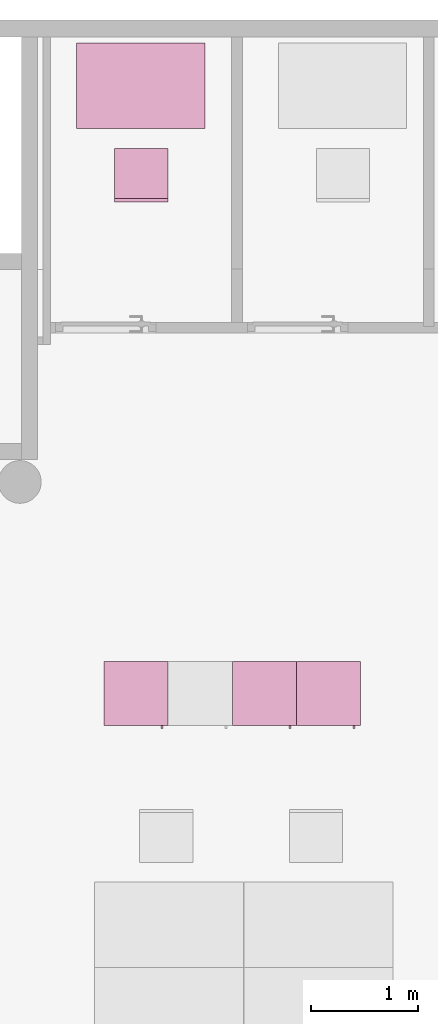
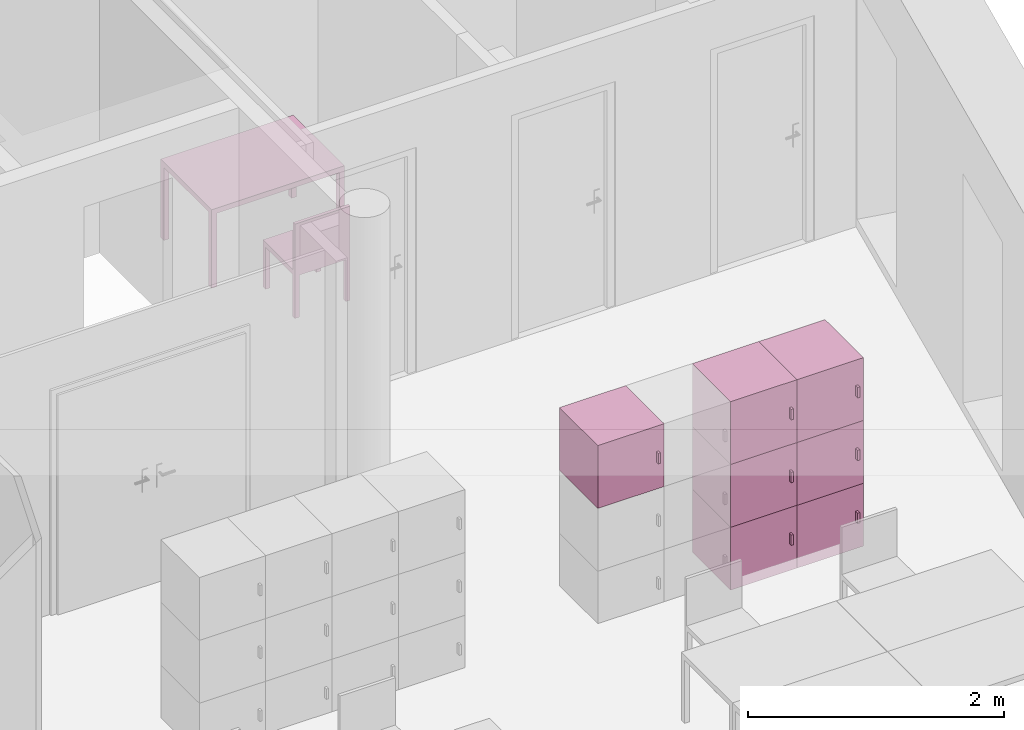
"""IFC4 building model written with IfcOpenShell, lengths in metres."""

from ifc_helpers import new_model, entity, si_unit, converted_unit, derived_unit, frame, origin, place, context, subcontext, project, spatial, faceted_brep, element, save


model = new_model("IFC4")

# Units and contexts
model_context = context("Model", 3, precision=1e-05, world=origin())
body_context = subcontext(model_context, "Body", "Model", "MODEL_VIEW")
ifc_project = project(units=[si_unit("LENGTHUNIT", "METRE"), si_unit("AREAUNIT", "SQUARE_METRE"), si_unit("VOLUMEUNIT", "CUBIC_METRE"), si_unit("MASSUNIT", "GRAM", prefix="KILO"), converted_unit("PLANEANGLEUNIT", "DEGREE", entity("IfcPlaneAngleMeasure", 0.0174532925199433), si_unit("PLANEANGLEUNIT", "RADIAN"), dimensions=[0, 0, 0, 0, 0, 0, 0]), derived_unit("THERMALTRANSMITTANCEUNIT", [(si_unit("POWERUNIT", "WATT"), 1), (si_unit("THERMODYNAMICTEMPERATUREUNIT", "KELVIN"), -1), (si_unit("LENGTHUNIT", "METRE"), -2)]), derived_unit("VOLUMETRICFLOWRATEUNIT", [(si_unit("LENGTHUNIT", "METRE"), 3), (converted_unit("TIMEUNIT", "hour", entity("IfcTimeMeasure", 3600.0), si_unit("TIMEUNIT", "SECOND"), dimensions=[0, 0, 1, 0, 0, 0, 0]), -1), (si_unit("LENGTHUNIT", "METRE"), -1)])], contexts=[model_context])

# Building, storeys
building_placement = place(None, origin())
building = spatial("IfcBuilding", under=ifc_project, at=building_placement, Name="HABITATGE PLURIFAMILIAR", CompositionType="ELEMENT")
storey_1_placement = place(building_placement, frame((0.0, 0.0, 15.28)))
storey_1 = spatial("IfcBuildingStorey", under=building, at=storey_1_placement, Name="PLANTA QUARTA", CompositionType="ELEMENT", Elevation=15.28)
storey_2_placement = place(storey_1_placement, frame((0.0, 0.0, 12.27)))
storey_2 = spatial("IfcBuildingStorey", under=storey_1, at=storey_2_placement, Name="NOU", CompositionType="PARTIAL")

# Furniture
furniture_1_placement = place(storey_2_placement, frame((422.982081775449, 21.587313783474, -11.77)))
element("IfcFurniture", 1, at=furniture_1_placement, inside=storey_2, Name="Armai 60x60x60_P4", context=body_context, shape_type="Brep", body=[
    faceted_brep([(0.600000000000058, 0.0300000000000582, 0.02), (0.600000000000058, 0.0300000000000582, 0.0), (0.0, 0.0300000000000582, 0.0), (0.0, 0.0300000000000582, 0.02), (0.0, 0.630000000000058, 0.0), (0.0, 0.630000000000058, 0.02), (0.600000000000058, 0.630000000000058, 0.0), (0.600000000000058, 0.630000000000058, 0.02)], [[[0, 1, 2, 3]], [[3, 2, 4, 5]], [[5, 4, 6, 7]], [[7, 6, 1, 0]], [[0, 3, 5, 7]], [[1, 6, 4, 2]]], orient=[[False], [False], [False], [False], [False], [False]]),
    faceted_brep([(0.02, 0.63, 0.58), (0.02, 0.61, 0.58), (0.02, 0.61, 0.02), (0.02, 0.63, 0.02), (0.58, 0.61, 0.02), (0.58, 0.63, 0.02), (0.58, 0.61, 0.58), (0.58, 0.63, 0.58)], [[[0, 1, 2, 3]], [[3, 2, 4, 5]], [[5, 4, 6, 7]], [[7, 6, 1, 0]], [[0, 3, 5, 7]], [[1, 6, 4, 2]]], orient=[[False], [False], [False], [False], [False], [False]]),
    faceted_brep([(0.58, 0.0300000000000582, 0.58), (0.6, 0.0300000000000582, 0.58), (0.6, 0.0300000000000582, 0.02), (0.58, 0.0300000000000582, 0.02), (0.6, 0.630000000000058, 0.02), (0.58, 0.630000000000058, 0.02), (0.6, 0.630000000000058, 0.58), (0.58, 0.630000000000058, 0.58)], [[[0, 1, 2, 3]], [[3, 2, 4, 5]], [[5, 4, 6, 7]], [[7, 6, 1, 0]], [[0, 3, 5, 7]], [[1, 6, 4, 2]]], orient=[[False], [False], [False], [False], [False], [False]]),
    faceted_brep([(0.600000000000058, 0.0500000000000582, 0.58), (0.600000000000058, 0.0300000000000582, 0.58), (0.600000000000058, 0.0300000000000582, 0.02), (0.600000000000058, 0.0500000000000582, 0.02), (0.580000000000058, 0.0300000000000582, 0.02), (0.580000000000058, 0.0500000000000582, 0.02), (0.580000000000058, 0.0300000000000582, 0.58), (0.580000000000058, 0.0500000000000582, 0.58)], [[[0, 1, 2, 3]], [[3, 2, 4, 5]], [[5, 4, 6, 7]], [[7, 6, 1, 0]], [[0, 3, 5, 7]], [[1, 6, 4, 2]]], orient=[[False], [False], [False], [False], [False], [False]]),
    faceted_brep([(0.0, 0.0300000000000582, 0.58), (0.0200000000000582, 0.0300000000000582, 0.58), (0.0200000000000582, 0.0300000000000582, 0.02), (0.0, 0.0300000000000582, 0.02), (0.0200000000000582, 0.630000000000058, 0.02), (0.0, 0.630000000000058, 0.02), (0.0200000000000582, 0.630000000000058, 0.58), (0.0, 0.630000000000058, 0.58)], [[[0, 1, 2, 3]], [[3, 2, 4, 5]], [[5, 4, 6, 7]], [[7, 6, 1, 0]], [[0, 3, 5, 7]], [[1, 6, 4, 2]]], orient=[[False], [False], [False], [False], [False], [False]]),
    faceted_brep([(0.6, 0.03, 0.6), (0.6, 0.03, 0.58), (0.0, 0.03, 0.58), (0.0, 0.03, 0.6), (0.0, 0.63, 0.58), (0.0, 0.63, 0.6), (0.6, 0.63, 0.58), (0.6, 0.63, 0.6)], [[[0, 1, 2, 3]], [[3, 2, 4, 5]], [[5, 4, 6, 7]], [[7, 6, 1, 0]], [[0, 3, 5, 7]], [[1, 6, 4, 2]]], orient=[[False], [False], [False], [False], [False], [False]]),
    faceted_brep([(0.02, 0.05, 0.58), (0.02, 0.03, 0.58), (0.02, 0.03, 0.02), (0.02, 0.05, 0.02), (0.580000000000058, 0.03, 0.02), (0.580000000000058, 0.05, 0.02), (0.580000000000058, 0.03, 0.58), (0.580000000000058, 0.05, 0.58)], [[[0, 1, 2, 3]], [[3, 2, 4, 5]], [[5, 4, 6, 7]], [[7, 6, 1, 0]], [[0, 3, 5, 7]], [[1, 6, 4, 2]]], orient=[[False], [False], [False], [False], [False], [False]]),
    faceted_brep([(0.53, 0.03, 0.358064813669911), (0.53, 0.0, 0.358064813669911), (0.53, 0.0, 0.258064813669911), (0.53, 0.03, 0.258064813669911), (0.55, 0.0, 0.258064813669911), (0.55, 0.03, 0.258064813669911), (0.55, 0.0, 0.358064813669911), (0.55, 0.03, 0.358064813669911)], [[[0, 1, 2, 3]], [[3, 2, 4, 5]], [[5, 4, 6, 7]], [[7, 6, 1, 0]], [[0, 3, 5, 7]], [[1, 6, 4, 2]]], orient=[[False], [False], [False], [False], [False], [False]]),
])
furniture_2_placement = place(storey_2_placement, frame((422.982081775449, 21.587313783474, -11.17)))
element("IfcFurniture", 2, at=furniture_2_placement, inside=storey_2, Name="Armai 60x60x60_P4", context=body_context, shape_type="Brep", body=[
    faceted_brep([(0.600000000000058, 0.0300000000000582, 0.02), (0.600000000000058, 0.0300000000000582, 0.0), (0.0, 0.0300000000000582, 0.0), (0.0, 0.0300000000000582, 0.02), (0.0, 0.630000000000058, 0.0), (0.0, 0.630000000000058, 0.02), (0.600000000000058, 0.630000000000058, 0.0), (0.600000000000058, 0.630000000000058, 0.02)], [[[0, 1, 2, 3]], [[3, 2, 4, 5]], [[5, 4, 6, 7]], [[7, 6, 1, 0]], [[0, 3, 5, 7]], [[1, 6, 4, 2]]], orient=[[False], [False], [False], [False], [False], [False]]),
    faceted_brep([(0.02, 0.63, 0.58), (0.02, 0.61, 0.58), (0.02, 0.61, 0.02), (0.02, 0.63, 0.02), (0.58, 0.61, 0.02), (0.58, 0.63, 0.02), (0.58, 0.61, 0.58), (0.58, 0.63, 0.58)], [[[0, 1, 2, 3]], [[3, 2, 4, 5]], [[5, 4, 6, 7]], [[7, 6, 1, 0]], [[0, 3, 5, 7]], [[1, 6, 4, 2]]], orient=[[False], [False], [False], [False], [False], [False]]),
    faceted_brep([(0.58, 0.0300000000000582, 0.58), (0.6, 0.0300000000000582, 0.58), (0.6, 0.0300000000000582, 0.02), (0.58, 0.0300000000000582, 0.02), (0.6, 0.630000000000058, 0.02), (0.58, 0.630000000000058, 0.02), (0.6, 0.630000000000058, 0.58), (0.58, 0.630000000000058, 0.58)], [[[0, 1, 2, 3]], [[3, 2, 4, 5]], [[5, 4, 6, 7]], [[7, 6, 1, 0]], [[0, 3, 5, 7]], [[1, 6, 4, 2]]], orient=[[False], [False], [False], [False], [False], [False]]),
    faceted_brep([(0.600000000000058, 0.0500000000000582, 0.58), (0.600000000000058, 0.0300000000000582, 0.58), (0.600000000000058, 0.0300000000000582, 0.02), (0.600000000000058, 0.0500000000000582, 0.02), (0.580000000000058, 0.0300000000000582, 0.02), (0.580000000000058, 0.0500000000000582, 0.02), (0.580000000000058, 0.0300000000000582, 0.58), (0.580000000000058, 0.0500000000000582, 0.58)], [[[0, 1, 2, 3]], [[3, 2, 4, 5]], [[5, 4, 6, 7]], [[7, 6, 1, 0]], [[0, 3, 5, 7]], [[1, 6, 4, 2]]], orient=[[False], [False], [False], [False], [False], [False]]),
    faceted_brep([(0.0, 0.0300000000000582, 0.58), (0.0200000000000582, 0.0300000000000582, 0.58), (0.0200000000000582, 0.0300000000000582, 0.02), (0.0, 0.0300000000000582, 0.02), (0.0200000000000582, 0.630000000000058, 0.02), (0.0, 0.630000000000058, 0.02), (0.0200000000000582, 0.630000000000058, 0.58), (0.0, 0.630000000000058, 0.58)], [[[0, 1, 2, 3]], [[3, 2, 4, 5]], [[5, 4, 6, 7]], [[7, 6, 1, 0]], [[0, 3, 5, 7]], [[1, 6, 4, 2]]], orient=[[False], [False], [False], [False], [False], [False]]),
    faceted_brep([(0.6, 0.03, 0.6), (0.6, 0.03, 0.58), (0.0, 0.03, 0.58), (0.0, 0.03, 0.6), (0.0, 0.63, 0.58), (0.0, 0.63, 0.6), (0.6, 0.63, 0.58), (0.6, 0.63, 0.6)], [[[0, 1, 2, 3]], [[3, 2, 4, 5]], [[5, 4, 6, 7]], [[7, 6, 1, 0]], [[0, 3, 5, 7]], [[1, 6, 4, 2]]], orient=[[False], [False], [False], [False], [False], [False]]),
    faceted_brep([(0.02, 0.05, 0.58), (0.02, 0.03, 0.58), (0.02, 0.03, 0.02), (0.02, 0.05, 0.02), (0.580000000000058, 0.03, 0.02), (0.580000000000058, 0.05, 0.02), (0.580000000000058, 0.03, 0.58), (0.580000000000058, 0.05, 0.58)], [[[0, 1, 2, 3]], [[3, 2, 4, 5]], [[5, 4, 6, 7]], [[7, 6, 1, 0]], [[0, 3, 5, 7]], [[1, 6, 4, 2]]], orient=[[False], [False], [False], [False], [False], [False]]),
    faceted_brep([(0.53, 0.03, 0.358064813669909), (0.53, 0.0, 0.358064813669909), (0.53, 0.0, 0.258064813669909), (0.53, 0.03, 0.258064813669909), (0.55, 0.0, 0.258064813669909), (0.55, 0.03, 0.258064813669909), (0.55, 0.0, 0.358064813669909), (0.55, 0.03, 0.358064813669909)], [[[0, 1, 2, 3]], [[3, 2, 4, 5]], [[5, 4, 6, 7]], [[7, 6, 1, 0]], [[0, 3, 5, 7]], [[1, 6, 4, 2]]], orient=[[False], [False], [False], [False], [False], [False]]),
])
furniture_3_placement = place(storey_2_placement, frame((421.782081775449, 21.587313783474, -11.17)))
element("IfcFurniture", 3, at=furniture_3_placement, inside=storey_2, Name="Armai 60x60x60_P4", context=body_context, shape_type="Brep", body=[
    faceted_brep([(0.600000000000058, 0.0300000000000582, 0.02), (0.600000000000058, 0.0300000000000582, 0.0), (0.0, 0.0300000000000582, 0.0), (0.0, 0.0300000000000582, 0.02), (0.0, 0.630000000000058, 0.0), (0.0, 0.630000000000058, 0.02), (0.600000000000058, 0.630000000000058, 0.0), (0.600000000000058, 0.630000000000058, 0.02)], [[[0, 1, 2, 3]], [[3, 2, 4, 5]], [[5, 4, 6, 7]], [[7, 6, 1, 0]], [[0, 3, 5, 7]], [[1, 6, 4, 2]]], orient=[[False], [False], [False], [False], [False], [False]]),
    faceted_brep([(0.02, 0.63, 0.58), (0.02, 0.61, 0.58), (0.02, 0.61, 0.02), (0.02, 0.63, 0.02), (0.58, 0.61, 0.02), (0.58, 0.63, 0.02), (0.58, 0.61, 0.58), (0.58, 0.63, 0.58)], [[[0, 1, 2, 3]], [[3, 2, 4, 5]], [[5, 4, 6, 7]], [[7, 6, 1, 0]], [[0, 3, 5, 7]], [[1, 6, 4, 2]]], orient=[[False], [False], [False], [False], [False], [False]]),
    faceted_brep([(0.58, 0.0300000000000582, 0.58), (0.6, 0.0300000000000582, 0.58), (0.6, 0.0300000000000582, 0.02), (0.58, 0.0300000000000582, 0.02), (0.6, 0.630000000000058, 0.02), (0.58, 0.630000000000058, 0.02), (0.6, 0.630000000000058, 0.58), (0.58, 0.630000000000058, 0.58)], [[[0, 1, 2, 3]], [[3, 2, 4, 5]], [[5, 4, 6, 7]], [[7, 6, 1, 0]], [[0, 3, 5, 7]], [[1, 6, 4, 2]]], orient=[[False], [False], [False], [False], [False], [False]]),
    faceted_brep([(0.600000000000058, 0.0500000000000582, 0.58), (0.600000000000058, 0.0300000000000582, 0.58), (0.600000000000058, 0.0300000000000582, 0.02), (0.600000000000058, 0.0500000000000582, 0.02), (0.580000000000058, 0.0300000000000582, 0.02), (0.580000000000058, 0.0500000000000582, 0.02), (0.580000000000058, 0.0300000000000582, 0.58), (0.580000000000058, 0.0500000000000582, 0.58)], [[[0, 1, 2, 3]], [[3, 2, 4, 5]], [[5, 4, 6, 7]], [[7, 6, 1, 0]], [[0, 3, 5, 7]], [[1, 6, 4, 2]]], orient=[[False], [False], [False], [False], [False], [False]]),
    faceted_brep([(0.0, 0.0300000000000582, 0.58), (0.0200000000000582, 0.0300000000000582, 0.58), (0.0200000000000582, 0.0300000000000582, 0.02), (0.0, 0.0300000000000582, 0.02), (0.0200000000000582, 0.630000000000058, 0.02), (0.0, 0.630000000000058, 0.02), (0.0200000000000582, 0.630000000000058, 0.58), (0.0, 0.630000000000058, 0.58)], [[[0, 1, 2, 3]], [[3, 2, 4, 5]], [[5, 4, 6, 7]], [[7, 6, 1, 0]], [[0, 3, 5, 7]], [[1, 6, 4, 2]]], orient=[[False], [False], [False], [False], [False], [False]]),
    faceted_brep([(0.6, 0.03, 0.6), (0.6, 0.03, 0.58), (0.0, 0.03, 0.58), (0.0, 0.03, 0.6), (0.0, 0.63, 0.58), (0.0, 0.63, 0.6), (0.6, 0.63, 0.58), (0.6, 0.63, 0.6)], [[[0, 1, 2, 3]], [[3, 2, 4, 5]], [[5, 4, 6, 7]], [[7, 6, 1, 0]], [[0, 3, 5, 7]], [[1, 6, 4, 2]]], orient=[[False], [False], [False], [False], [False], [False]]),
    faceted_brep([(0.02, 0.05, 0.58), (0.02, 0.03, 0.58), (0.02, 0.03, 0.02), (0.02, 0.05, 0.02), (0.580000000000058, 0.03, 0.02), (0.580000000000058, 0.05, 0.02), (0.580000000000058, 0.03, 0.58), (0.580000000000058, 0.05, 0.58)], [[[0, 1, 2, 3]], [[3, 2, 4, 5]], [[5, 4, 6, 7]], [[7, 6, 1, 0]], [[0, 3, 5, 7]], [[1, 6, 4, 2]]], orient=[[False], [False], [False], [False], [False], [False]]),
    faceted_brep([(0.53, 0.03, 0.358064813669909), (0.53, 0.0, 0.358064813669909), (0.53, 0.0, 0.258064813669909), (0.53, 0.03, 0.258064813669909), (0.55, 0.0, 0.258064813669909), (0.55, 0.03, 0.258064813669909), (0.55, 0.0, 0.358064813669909), (0.55, 0.03, 0.358064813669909)], [[[0, 1, 2, 3]], [[3, 2, 4, 5]], [[5, 4, 6, 7]], [[7, 6, 1, 0]], [[0, 3, 5, 7]], [[1, 6, 4, 2]]], orient=[[False], [False], [False], [False], [False], [False]]),
])
furniture_4_placement = place(storey_2_placement, frame((422.982081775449, 21.587313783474, -12.37)))
element("IfcFurniture", 4, at=furniture_4_placement, inside=storey_2, Name="Armai 60x60x60_P4", context=body_context, shape_type="Brep", body=[
    faceted_brep([(0.600000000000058, 0.0300000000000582, 0.02), (0.600000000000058, 0.0300000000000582, 0.0), (0.0, 0.0300000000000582, 0.0), (0.0, 0.0300000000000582, 0.02), (0.0, 0.630000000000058, 0.0), (0.0, 0.630000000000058, 0.02), (0.600000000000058, 0.630000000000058, 0.0), (0.600000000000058, 0.630000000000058, 0.02)], [[[0, 1, 2, 3]], [[3, 2, 4, 5]], [[5, 4, 6, 7]], [[7, 6, 1, 0]], [[0, 3, 5, 7]], [[1, 6, 4, 2]]], orient=[[False], [False], [False], [False], [False], [False]]),
    faceted_brep([(0.02, 0.63, 0.58), (0.02, 0.61, 0.58), (0.02, 0.61, 0.02), (0.02, 0.63, 0.02), (0.58, 0.61, 0.02), (0.58, 0.63, 0.02), (0.58, 0.61, 0.58), (0.58, 0.63, 0.58)], [[[0, 1, 2, 3]], [[3, 2, 4, 5]], [[5, 4, 6, 7]], [[7, 6, 1, 0]], [[0, 3, 5, 7]], [[1, 6, 4, 2]]], orient=[[False], [False], [False], [False], [False], [False]]),
    faceted_brep([(0.58, 0.0300000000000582, 0.58), (0.6, 0.0300000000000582, 0.58), (0.6, 0.0300000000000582, 0.02), (0.58, 0.0300000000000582, 0.02), (0.6, 0.630000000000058, 0.02), (0.58, 0.630000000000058, 0.02), (0.6, 0.630000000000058, 0.58), (0.58, 0.630000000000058, 0.58)], [[[0, 1, 2, 3]], [[3, 2, 4, 5]], [[5, 4, 6, 7]], [[7, 6, 1, 0]], [[0, 3, 5, 7]], [[1, 6, 4, 2]]], orient=[[False], [False], [False], [False], [False], [False]]),
    faceted_brep([(0.600000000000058, 0.0500000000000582, 0.58), (0.600000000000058, 0.0300000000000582, 0.58), (0.600000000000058, 0.0300000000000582, 0.02), (0.600000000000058, 0.0500000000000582, 0.02), (0.580000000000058, 0.0300000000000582, 0.02), (0.580000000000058, 0.0500000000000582, 0.02), (0.580000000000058, 0.0300000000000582, 0.58), (0.580000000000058, 0.0500000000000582, 0.58)], [[[0, 1, 2, 3]], [[3, 2, 4, 5]], [[5, 4, 6, 7]], [[7, 6, 1, 0]], [[0, 3, 5, 7]], [[1, 6, 4, 2]]], orient=[[False], [False], [False], [False], [False], [False]]),
    faceted_brep([(0.0, 0.0300000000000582, 0.58), (0.0200000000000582, 0.0300000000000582, 0.58), (0.0200000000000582, 0.0300000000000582, 0.02), (0.0, 0.0300000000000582, 0.02), (0.0200000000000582, 0.630000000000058, 0.02), (0.0, 0.630000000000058, 0.02), (0.0200000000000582, 0.630000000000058, 0.58), (0.0, 0.630000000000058, 0.58)], [[[0, 1, 2, 3]], [[3, 2, 4, 5]], [[5, 4, 6, 7]], [[7, 6, 1, 0]], [[0, 3, 5, 7]], [[1, 6, 4, 2]]], orient=[[False], [False], [False], [False], [False], [False]]),
    faceted_brep([(0.6, 0.03, 0.6), (0.6, 0.03, 0.58), (0.0, 0.03, 0.58), (0.0, 0.03, 0.6), (0.0, 0.63, 0.58), (0.0, 0.63, 0.6), (0.6, 0.63, 0.58), (0.6, 0.63, 0.6)], [[[0, 1, 2, 3]], [[3, 2, 4, 5]], [[5, 4, 6, 7]], [[7, 6, 1, 0]], [[0, 3, 5, 7]], [[1, 6, 4, 2]]], orient=[[False], [False], [False], [False], [False], [False]]),
    faceted_brep([(0.02, 0.05, 0.58), (0.02, 0.03, 0.58), (0.02, 0.03, 0.02), (0.02, 0.05, 0.02), (0.580000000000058, 0.03, 0.02), (0.580000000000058, 0.05, 0.02), (0.580000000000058, 0.03, 0.58), (0.580000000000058, 0.05, 0.58)], [[[0, 1, 2, 3]], [[3, 2, 4, 5]], [[5, 4, 6, 7]], [[7, 6, 1, 0]], [[0, 3, 5, 7]], [[1, 6, 4, 2]]], orient=[[False], [False], [False], [False], [False], [False]]),
    faceted_brep([(0.53, 0.03, 0.358064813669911), (0.53, 0.0, 0.358064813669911), (0.53, 0.0, 0.258064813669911), (0.53, 0.03, 0.258064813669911), (0.55, 0.0, 0.258064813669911), (0.55, 0.03, 0.258064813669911), (0.55, 0.0, 0.358064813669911), (0.55, 0.03, 0.358064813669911)], [[[0, 1, 2, 3]], [[3, 2, 4, 5]], [[5, 4, 6, 7]], [[7, 6, 1, 0]], [[0, 3, 5, 7]], [[1, 6, 4, 2]]], orient=[[False], [False], [False], [False], [False], [False]]),
])
furniture_5_placement = place(storey_2_placement, frame((423.582081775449, 21.587313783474, -12.37)))
element("IfcFurniture", 5, at=furniture_5_placement, inside=storey_2, Name="Armai 60x60x60_P4", context=body_context, shape_type="Brep", body=[
    faceted_brep([(0.600000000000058, 0.0300000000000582, 0.02), (0.600000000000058, 0.0300000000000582, 0.0), (0.0, 0.0300000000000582, 0.0), (0.0, 0.0300000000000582, 0.02), (0.0, 0.630000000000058, 0.0), (0.0, 0.630000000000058, 0.02), (0.600000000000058, 0.630000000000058, 0.0), (0.600000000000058, 0.630000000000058, 0.02)], [[[0, 1, 2, 3]], [[3, 2, 4, 5]], [[5, 4, 6, 7]], [[7, 6, 1, 0]], [[0, 3, 5, 7]], [[1, 6, 4, 2]]], orient=[[False], [False], [False], [False], [False], [False]]),
    faceted_brep([(0.02, 0.63, 0.58), (0.02, 0.61, 0.58), (0.02, 0.61, 0.02), (0.02, 0.63, 0.02), (0.58, 0.61, 0.02), (0.58, 0.63, 0.02), (0.58, 0.61, 0.58), (0.58, 0.63, 0.58)], [[[0, 1, 2, 3]], [[3, 2, 4, 5]], [[5, 4, 6, 7]], [[7, 6, 1, 0]], [[0, 3, 5, 7]], [[1, 6, 4, 2]]], orient=[[False], [False], [False], [False], [False], [False]]),
    faceted_brep([(0.58, 0.0300000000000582, 0.58), (0.6, 0.0300000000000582, 0.58), (0.6, 0.0300000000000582, 0.02), (0.58, 0.0300000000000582, 0.02), (0.6, 0.630000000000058, 0.02), (0.58, 0.630000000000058, 0.02), (0.6, 0.630000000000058, 0.58), (0.58, 0.630000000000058, 0.58)], [[[0, 1, 2, 3]], [[3, 2, 4, 5]], [[5, 4, 6, 7]], [[7, 6, 1, 0]], [[0, 3, 5, 7]], [[1, 6, 4, 2]]], orient=[[False], [False], [False], [False], [False], [False]]),
    faceted_brep([(0.600000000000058, 0.0500000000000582, 0.58), (0.600000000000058, 0.0300000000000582, 0.58), (0.600000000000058, 0.0300000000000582, 0.02), (0.600000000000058, 0.0500000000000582, 0.02), (0.580000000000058, 0.0300000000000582, 0.02), (0.580000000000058, 0.0500000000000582, 0.02), (0.580000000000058, 0.0300000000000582, 0.58), (0.580000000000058, 0.0500000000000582, 0.58)], [[[0, 1, 2, 3]], [[3, 2, 4, 5]], [[5, 4, 6, 7]], [[7, 6, 1, 0]], [[0, 3, 5, 7]], [[1, 6, 4, 2]]], orient=[[False], [False], [False], [False], [False], [False]]),
    faceted_brep([(0.0, 0.0300000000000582, 0.58), (0.0200000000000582, 0.0300000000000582, 0.58), (0.0200000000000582, 0.0300000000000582, 0.02), (0.0, 0.0300000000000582, 0.02), (0.0200000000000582, 0.630000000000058, 0.02), (0.0, 0.630000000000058, 0.02), (0.0200000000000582, 0.630000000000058, 0.58), (0.0, 0.630000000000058, 0.58)], [[[0, 1, 2, 3]], [[3, 2, 4, 5]], [[5, 4, 6, 7]], [[7, 6, 1, 0]], [[0, 3, 5, 7]], [[1, 6, 4, 2]]], orient=[[False], [False], [False], [False], [False], [False]]),
    faceted_brep([(0.6, 0.03, 0.6), (0.6, 0.03, 0.58), (0.0, 0.03, 0.58), (0.0, 0.03, 0.6), (0.0, 0.63, 0.58), (0.0, 0.63, 0.6), (0.6, 0.63, 0.58), (0.6, 0.63, 0.6)], [[[0, 1, 2, 3]], [[3, 2, 4, 5]], [[5, 4, 6, 7]], [[7, 6, 1, 0]], [[0, 3, 5, 7]], [[1, 6, 4, 2]]], orient=[[False], [False], [False], [False], [False], [False]]),
    faceted_brep([(0.02, 0.05, 0.58), (0.02, 0.03, 0.58), (0.02, 0.03, 0.02), (0.02, 0.05, 0.02), (0.580000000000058, 0.03, 0.02), (0.580000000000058, 0.05, 0.02), (0.580000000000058, 0.03, 0.58), (0.580000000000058, 0.05, 0.58)], [[[0, 1, 2, 3]], [[3, 2, 4, 5]], [[5, 4, 6, 7]], [[7, 6, 1, 0]], [[0, 3, 5, 7]], [[1, 6, 4, 2]]], orient=[[False], [False], [False], [False], [False], [False]]),
    faceted_brep([(0.53, 0.03, 0.358064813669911), (0.53, 0.0, 0.358064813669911), (0.53, 0.0, 0.258064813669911), (0.53, 0.03, 0.258064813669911), (0.55, 0.0, 0.258064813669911), (0.55, 0.03, 0.258064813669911), (0.55, 0.0, 0.358064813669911), (0.55, 0.03, 0.358064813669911)], [[[0, 1, 2, 3]], [[3, 2, 4, 5]], [[5, 4, 6, 7]], [[7, 6, 1, 0]], [[0, 3, 5, 7]], [[1, 6, 4, 2]]], orient=[[False], [False], [False], [False], [False], [False]]),
])
furniture_6_placement = place(storey_2_placement, frame((423.582081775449, 21.587313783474, -11.77)))
element("IfcFurniture", 6, at=furniture_6_placement, inside=storey_2, Name="Armai 60x60x60_P4", context=body_context, shape_type="Brep", body=[
    faceted_brep([(0.600000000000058, 0.0300000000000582, 0.02), (0.600000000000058, 0.0300000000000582, 0.0), (0.0, 0.0300000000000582, 0.0), (0.0, 0.0300000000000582, 0.02), (0.0, 0.630000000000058, 0.0), (0.0, 0.630000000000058, 0.02), (0.600000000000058, 0.630000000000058, 0.0), (0.600000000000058, 0.630000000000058, 0.02)], [[[0, 1, 2, 3]], [[3, 2, 4, 5]], [[5, 4, 6, 7]], [[7, 6, 1, 0]], [[0, 3, 5, 7]], [[1, 6, 4, 2]]], orient=[[False], [False], [False], [False], [False], [False]]),
    faceted_brep([(0.02, 0.63, 0.58), (0.02, 0.61, 0.58), (0.02, 0.61, 0.02), (0.02, 0.63, 0.02), (0.58, 0.61, 0.02), (0.58, 0.63, 0.02), (0.58, 0.61, 0.58), (0.58, 0.63, 0.58)], [[[0, 1, 2, 3]], [[3, 2, 4, 5]], [[5, 4, 6, 7]], [[7, 6, 1, 0]], [[0, 3, 5, 7]], [[1, 6, 4, 2]]], orient=[[False], [False], [False], [False], [False], [False]]),
    faceted_brep([(0.58, 0.0300000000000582, 0.58), (0.6, 0.0300000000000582, 0.58), (0.6, 0.0300000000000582, 0.02), (0.58, 0.0300000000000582, 0.02), (0.6, 0.630000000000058, 0.02), (0.58, 0.630000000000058, 0.02), (0.6, 0.630000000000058, 0.58), (0.58, 0.630000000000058, 0.58)], [[[0, 1, 2, 3]], [[3, 2, 4, 5]], [[5, 4, 6, 7]], [[7, 6, 1, 0]], [[0, 3, 5, 7]], [[1, 6, 4, 2]]], orient=[[False], [False], [False], [False], [False], [False]]),
    faceted_brep([(0.600000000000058, 0.0500000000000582, 0.58), (0.600000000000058, 0.0300000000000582, 0.58), (0.600000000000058, 0.0300000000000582, 0.02), (0.600000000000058, 0.0500000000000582, 0.02), (0.580000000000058, 0.0300000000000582, 0.02), (0.580000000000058, 0.0500000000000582, 0.02), (0.580000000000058, 0.0300000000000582, 0.58), (0.580000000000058, 0.0500000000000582, 0.58)], [[[0, 1, 2, 3]], [[3, 2, 4, 5]], [[5, 4, 6, 7]], [[7, 6, 1, 0]], [[0, 3, 5, 7]], [[1, 6, 4, 2]]], orient=[[False], [False], [False], [False], [False], [False]]),
    faceted_brep([(0.0, 0.0300000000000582, 0.58), (0.0200000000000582, 0.0300000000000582, 0.58), (0.0200000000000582, 0.0300000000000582, 0.02), (0.0, 0.0300000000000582, 0.02), (0.0200000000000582, 0.630000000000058, 0.02), (0.0, 0.630000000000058, 0.02), (0.0200000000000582, 0.630000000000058, 0.58), (0.0, 0.630000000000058, 0.58)], [[[0, 1, 2, 3]], [[3, 2, 4, 5]], [[5, 4, 6, 7]], [[7, 6, 1, 0]], [[0, 3, 5, 7]], [[1, 6, 4, 2]]], orient=[[False], [False], [False], [False], [False], [False]]),
    faceted_brep([(0.6, 0.03, 0.6), (0.6, 0.03, 0.58), (0.0, 0.03, 0.58), (0.0, 0.03, 0.6), (0.0, 0.63, 0.58), (0.0, 0.63, 0.6), (0.6, 0.63, 0.58), (0.6, 0.63, 0.6)], [[[0, 1, 2, 3]], [[3, 2, 4, 5]], [[5, 4, 6, 7]], [[7, 6, 1, 0]], [[0, 3, 5, 7]], [[1, 6, 4, 2]]], orient=[[False], [False], [False], [False], [False], [False]]),
    faceted_brep([(0.02, 0.05, 0.58), (0.02, 0.03, 0.58), (0.02, 0.03, 0.02), (0.02, 0.05, 0.02), (0.580000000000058, 0.03, 0.02), (0.580000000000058, 0.05, 0.02), (0.580000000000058, 0.03, 0.58), (0.580000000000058, 0.05, 0.58)], [[[0, 1, 2, 3]], [[3, 2, 4, 5]], [[5, 4, 6, 7]], [[7, 6, 1, 0]], [[0, 3, 5, 7]], [[1, 6, 4, 2]]], orient=[[False], [False], [False], [False], [False], [False]]),
    faceted_brep([(0.53, 0.03, 0.358064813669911), (0.53, 0.0, 0.358064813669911), (0.53, 0.0, 0.258064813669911), (0.53, 0.03, 0.258064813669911), (0.55, 0.0, 0.258064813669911), (0.55, 0.03, 0.258064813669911), (0.55, 0.0, 0.358064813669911), (0.55, 0.03, 0.358064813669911)], [[[0, 1, 2, 3]], [[3, 2, 4, 5]], [[5, 4, 6, 7]], [[7, 6, 1, 0]], [[0, 3, 5, 7]], [[1, 6, 4, 2]]], orient=[[False], [False], [False], [False], [False], [False]]),
])
furniture_7_placement = place(storey_2_placement, frame((423.582081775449, 21.587313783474, -11.17)))
element("IfcFurniture", 7, at=furniture_7_placement, inside=storey_2, Name="Armai 60x60x60_P4", context=body_context, shape_type="Brep", body=[
    faceted_brep([(0.600000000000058, 0.0300000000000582, 0.02), (0.600000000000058, 0.0300000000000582, 0.0), (0.0, 0.0300000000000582, 0.0), (0.0, 0.0300000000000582, 0.02), (0.0, 0.630000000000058, 0.0), (0.0, 0.630000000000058, 0.02), (0.600000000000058, 0.630000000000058, 0.0), (0.600000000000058, 0.630000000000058, 0.02)], [[[0, 1, 2, 3]], [[3, 2, 4, 5]], [[5, 4, 6, 7]], [[7, 6, 1, 0]], [[0, 3, 5, 7]], [[1, 6, 4, 2]]], orient=[[False], [False], [False], [False], [False], [False]]),
    faceted_brep([(0.02, 0.63, 0.58), (0.02, 0.61, 0.58), (0.02, 0.61, 0.02), (0.02, 0.63, 0.02), (0.58, 0.61, 0.02), (0.58, 0.63, 0.02), (0.58, 0.61, 0.58), (0.58, 0.63, 0.58)], [[[0, 1, 2, 3]], [[3, 2, 4, 5]], [[5, 4, 6, 7]], [[7, 6, 1, 0]], [[0, 3, 5, 7]], [[1, 6, 4, 2]]], orient=[[False], [False], [False], [False], [False], [False]]),
    faceted_brep([(0.58, 0.0300000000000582, 0.58), (0.6, 0.0300000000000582, 0.58), (0.6, 0.0300000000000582, 0.02), (0.58, 0.0300000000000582, 0.02), (0.6, 0.630000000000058, 0.02), (0.58, 0.630000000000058, 0.02), (0.6, 0.630000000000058, 0.58), (0.58, 0.630000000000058, 0.58)], [[[0, 1, 2, 3]], [[3, 2, 4, 5]], [[5, 4, 6, 7]], [[7, 6, 1, 0]], [[0, 3, 5, 7]], [[1, 6, 4, 2]]], orient=[[False], [False], [False], [False], [False], [False]]),
    faceted_brep([(0.600000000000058, 0.0500000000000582, 0.58), (0.600000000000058, 0.0300000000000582, 0.58), (0.600000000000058, 0.0300000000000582, 0.02), (0.600000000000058, 0.0500000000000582, 0.02), (0.580000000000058, 0.0300000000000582, 0.02), (0.580000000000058, 0.0500000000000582, 0.02), (0.580000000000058, 0.0300000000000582, 0.58), (0.580000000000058, 0.0500000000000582, 0.58)], [[[0, 1, 2, 3]], [[3, 2, 4, 5]], [[5, 4, 6, 7]], [[7, 6, 1, 0]], [[0, 3, 5, 7]], [[1, 6, 4, 2]]], orient=[[False], [False], [False], [False], [False], [False]]),
    faceted_brep([(0.0, 0.0300000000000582, 0.58), (0.0200000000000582, 0.0300000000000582, 0.58), (0.0200000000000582, 0.0300000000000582, 0.02), (0.0, 0.0300000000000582, 0.02), (0.0200000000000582, 0.630000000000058, 0.02), (0.0, 0.630000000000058, 0.02), (0.0200000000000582, 0.630000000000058, 0.58), (0.0, 0.630000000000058, 0.58)], [[[0, 1, 2, 3]], [[3, 2, 4, 5]], [[5, 4, 6, 7]], [[7, 6, 1, 0]], [[0, 3, 5, 7]], [[1, 6, 4, 2]]], orient=[[False], [False], [False], [False], [False], [False]]),
    faceted_brep([(0.6, 0.03, 0.6), (0.6, 0.03, 0.58), (0.0, 0.03, 0.58), (0.0, 0.03, 0.6), (0.0, 0.63, 0.58), (0.0, 0.63, 0.6), (0.6, 0.63, 0.58), (0.6, 0.63, 0.6)], [[[0, 1, 2, 3]], [[3, 2, 4, 5]], [[5, 4, 6, 7]], [[7, 6, 1, 0]], [[0, 3, 5, 7]], [[1, 6, 4, 2]]], orient=[[False], [False], [False], [False], [False], [False]]),
    faceted_brep([(0.02, 0.05, 0.58), (0.02, 0.03, 0.58), (0.02, 0.03, 0.02), (0.02, 0.05, 0.02), (0.580000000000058, 0.03, 0.02), (0.580000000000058, 0.05, 0.02), (0.580000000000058, 0.03, 0.58), (0.580000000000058, 0.05, 0.58)], [[[0, 1, 2, 3]], [[3, 2, 4, 5]], [[5, 4, 6, 7]], [[7, 6, 1, 0]], [[0, 3, 5, 7]], [[1, 6, 4, 2]]], orient=[[False], [False], [False], [False], [False], [False]]),
    faceted_brep([(0.53, 0.03, 0.358064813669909), (0.53, 0.0, 0.358064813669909), (0.53, 0.0, 0.258064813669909), (0.53, 0.03, 0.258064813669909), (0.55, 0.0, 0.258064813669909), (0.55, 0.03, 0.258064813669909), (0.55, 0.0, 0.358064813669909), (0.55, 0.03, 0.358064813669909)], [[[0, 1, 2, 3]], [[3, 2, 4, 5]], [[5, 4, 6, 7]], [[7, 6, 1, 0]], [[0, 3, 5, 7]], [[1, 6, 4, 2]]], orient=[[False], [False], [False], [False], [False], [False]]),
])
furniture_8_placement = place(storey_2_placement, frame((421.524646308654, 27.2124791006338, -12.3699999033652)))
element("IfcFurniture", 8, at=furniture_8_placement, inside=storey_2, Name="Taula 120X80_P4", context=body_context, shape_type="Brep", body=[
    faceted_brep([(0.0464285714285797, 0.750069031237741, 0.0), (0.0464285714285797, 0.800069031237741, 0.0), (0.0, 0.800069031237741, 0.0), (0.0, 0.750069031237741, 0.0), (0.0464285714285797, 0.800069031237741, 0.7), (0.0464285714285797, 0.750069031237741, 0.7), (0.0, 0.750069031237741, 0.7), (0.0, 0.800069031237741, 0.7)], [[[0, 1, 2, 3]], [[4, 5, 6, 7]], [[1, 0, 5, 4]], [[2, 1, 4, 7]], [[3, 2, 7, 6]], [[0, 3, 6, 5]]], orient=[[False], [False], [False], [False], [False], [False]]),
    faceted_brep([(0.046428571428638, 0.0, 0.0), (0.046428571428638, 0.0500000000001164, 0.0), (0.0, 0.0500000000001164, 0.0), (0.0, 0.0, 0.0), (0.046428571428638, 0.0500000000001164, 0.7), (0.046428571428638, 0.0, 0.7), (0.0, 0.0, 0.7), (0.0, 0.0500000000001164, 0.7)], [[[0, 1, 2, 3]], [[4, 5, 6, 7]], [[1, 0, 5, 4]], [[2, 1, 4, 7]], [[3, 2, 7, 6]], [[0, 3, 6, 5]]], orient=[[False], [False], [False], [False], [False], [False]]),
    faceted_brep([(1.2, 0.750069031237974, 0.0), (1.2, 0.800069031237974, 0.0), (1.15357142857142, 0.800069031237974, 0.0), (1.15357142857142, 0.750069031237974, 0.0), (1.2, 0.800069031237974, 0.7), (1.2, 0.750069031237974, 0.7), (1.15357142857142, 0.750069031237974, 0.7), (1.15357142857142, 0.800069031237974, 0.7)], [[[0, 1, 2, 3]], [[4, 5, 6, 7]], [[1, 0, 5, 4]], [[2, 1, 4, 7]], [[3, 2, 7, 6]], [[0, 3, 6, 5]]], orient=[[False], [False], [False], [False], [False], [False]]),
    faceted_brep([(1.20000000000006, 0.0, 0.0), (1.20000000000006, 0.0500000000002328, 0.0), (1.15357142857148, 0.0500000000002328, 0.0), (1.15357142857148, 0.0, 0.0), (1.20000000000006, 0.0500000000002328, 0.7), (1.20000000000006, 0.0, 0.7), (1.15357142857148, 0.0, 0.7), (1.15357142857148, 0.0500000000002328, 0.7)], [[[0, 1, 2, 3]], [[4, 5, 6, 7]], [[1, 0, 5, 4]], [[2, 1, 4, 7]], [[3, 2, 7, 6]], [[0, 3, 6, 5]]], orient=[[False], [False], [False], [False], [False], [False]]),
    faceted_brep([(1.20000000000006, 0.0, 0.7), (1.2, 0.800069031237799, 0.7), (0.0, 0.800069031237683, 0.7), (0.0, 0.0, 0.7), (1.2, 0.800069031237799, 0.75), (1.20000000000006, 0.0, 0.75), (0.0, 0.0, 0.75), (0.0, 0.800069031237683, 0.75)], [[[0, 1, 2, 3]], [[4, 5, 6, 7]], [[1, 0, 5, 4]], [[2, 1, 4, 7]], [[3, 2, 7, 6]], [[0, 3, 6, 5]]], orient=[[False], [False], [False], [False], [False], [False]]),
])
furniture_9_placement = place(storey_2_placement, frame((421.878874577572, 26.5242885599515, -12.3653305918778)))
element("IfcFurniture", 9, at=furniture_9_placement, inside=storey_2, Name="Cadira d'Oficina_P4", context=body_context, shape_type="Brep", body=[
    faceted_brep([(0.5, 0.5, 0.399999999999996), (0.0, 0.500000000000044, 0.399999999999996), (0.0, 0.0, 0.399999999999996), (0.5, 0.0, 0.399999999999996), (0.5, 0.0, 0.449999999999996), (0.0, 0.0, 0.449999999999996), (0.0, 0.500000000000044, 0.449999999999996), (0.5, 0.5, 0.449999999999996)], [[[0, 1, 2, 3]], [[4, 5, 6, 7]], [[3, 4, 7, 0]], [[2, 5, 4, 3]], [[1, 6, 5, 2]], [[0, 7, 6, 1]]], orient=[[False], [False], [False], [False], [False], [False]]),
    faceted_brep([(0.0, 0.0400000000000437, 0.0), (0.0, 0.0, 0.0), (0.04, 0.0, 0.0), (0.04, 0.0400000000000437, 0.0), (0.04, 0.0400000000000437, 0.4), (0.04, 0.0, 0.4), (0.0, 0.0, 0.4), (0.0, 0.0400000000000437, 0.4)], [[[0, 1, 2, 3]], [[4, 5, 6, 7]], [[3, 4, 7, 0]], [[2, 5, 4, 3]], [[1, 6, 5, 2]], [[0, 7, 6, 1]]], orient=[[False], [False], [False], [False], [False], [False]]),
    faceted_brep([(0.0, 0.500000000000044, 0.0), (0.0, 0.460000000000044, 0.0), (0.04, 0.460000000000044, 0.0), (0.04, 0.500000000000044, 0.0), (0.04, 0.500000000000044, 0.4), (0.04, 0.460000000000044, 0.4), (0.0, 0.460000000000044, 0.4), (0.0, 0.500000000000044, 0.4)], [[[0, 1, 2, 3]], [[4, 5, 6, 7]], [[3, 4, 7, 0]], [[2, 5, 4, 3]], [[1, 6, 5, 2]], [[0, 7, 6, 1]]], orient=[[False], [False], [False], [False], [False], [False]]),
    faceted_brep([(0.46, 0.04, 0.0), (0.46, 0.0, 0.0), (0.5, 0.0, 0.0), (0.5, 0.04, 0.0), (0.5, 0.04, 0.4), (0.5, 0.0, 0.4), (0.46, 0.0, 0.4), (0.46, 0.04, 0.4)], [[[0, 1, 2, 3]], [[4, 5, 6, 7]], [[3, 4, 7, 0]], [[2, 5, 4, 3]], [[1, 6, 5, 2]], [[0, 7, 6, 1]]], orient=[[False], [False], [False], [False], [False], [False]]),
    faceted_brep([(0.46, 0.5, 0.0), (0.46, 0.46, 0.0), (0.5, 0.46, 0.0), (0.5, 0.5, 0.0), (0.5, 0.5, 0.4), (0.5, 0.46, 0.4), (0.46, 0.46, 0.4), (0.46, 0.5, 0.4)], [[[0, 1, 2, 3]], [[4, 5, 6, 7]], [[3, 4, 7, 0]], [[2, 5, 4, 3]], [[1, 6, 5, 2]], [[0, 7, 6, 1]]], orient=[[False], [False], [False], [False], [False], [False]]),
    faceted_brep([(0.0, 0.0300000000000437, 0.45), (0.0, 0.0, 0.45), (0.5, 0.0, 0.45), (0.5, 0.03, 0.45), (0.5, 0.03, 0.9), (0.5, 0.0, 0.9), (0.0, 0.0, 0.9), (0.0, 0.0300000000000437, 0.9)], [[[0, 1, 2, 3]], [[4, 5, 6, 7]], [[3, 4, 7, 0]], [[2, 5, 4, 3]], [[1, 6, 5, 2]], [[0, 7, 6, 1]]], orient=[[False], [False], [False], [False], [False], [False]]),
])

save(model, "model.ifc")
